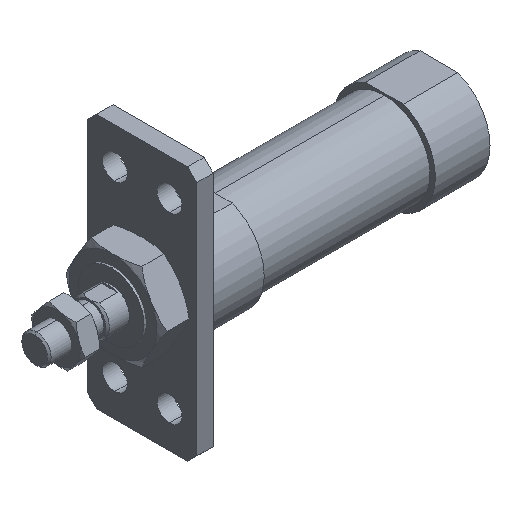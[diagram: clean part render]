
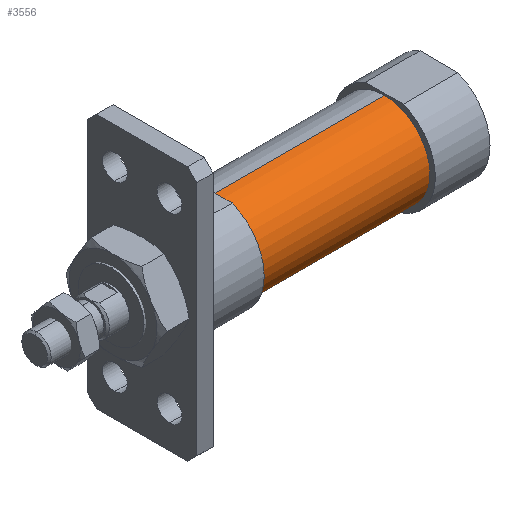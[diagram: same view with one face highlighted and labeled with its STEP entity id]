
A CAD part, isometric view. The second image highlights one B-rep face of the part: STEP entity #3556.
In plain terms, the highlighted cylindrical face has radius 12.5 mm (diameter 25 mm), a partial arc.
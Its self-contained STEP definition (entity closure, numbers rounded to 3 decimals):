
#202 = CARTESIAN_POINT ( 'NONE',  ( 96., 0., 0. ) ) ;
#318 = CARTESIAN_POINT ( 'NONE',  ( -6.469, 0., -12.5 ) ) ;
#387 = AXIS2_PLACEMENT_3D ( 'NONE', #1366, #1168, #2891 ) ;
#467 = CARTESIAN_POINT ( 'NONE',  ( -6.469, 0., 12.5 ) ) ;
#476 = CARTESIAN_POINT ( 'NONE',  ( 96., 0., -12.5 ) ) ;
#495 = CIRCLE ( 'NONE', #387, 12.5 ) ;
#565 = DIRECTION ( 'NONE',  ( -1., 0., 0. ) ) ;
#703 = EDGE_CURVE ( 'NONE', #729, #1319, #1363, .T. ) ;
#729 = VERTEX_POINT ( 'NONE', #476 ) ;
#840 = CARTESIAN_POINT ( 'NONE',  ( -6.469, 0., 0. ) ) ;
#1129 = VECTOR ( 'NONE', #2518, 1000. ) ;
#1168 = DIRECTION ( 'NONE',  ( -1., 0., 0. ) ) ;
#1319 = VERTEX_POINT ( 'NONE', #1540 ) ;
#1326 = AXIS2_PLACEMENT_3D ( 'NONE', #840, #565, #1750 ) ;
#1363 = CIRCLE ( 'NONE', #3261, 12.5 ) ;
#1366 = CARTESIAN_POINT ( 'NONE',  ( 49., 0., 0. ) ) ;
#1540 = CARTESIAN_POINT ( 'NONE',  ( 96., 0., 12.5 ) ) ;
#1673 = DIRECTION ( 'NONE',  ( 0., 0., 1. ) ) ;
#1750 = DIRECTION ( 'NONE',  ( 0., 0., 1. ) ) ;
#1894 = LINE ( 'NONE', #467, #1129 ) ;
#1977 = EDGE_CURVE ( 'NONE', #1319, #3231, #1894, .T. ) ;
#2049 = DIRECTION ( 'NONE',  ( -1., 0., 0. ) ) ;
#2173 = ORIENTED_EDGE ( 'NONE', *, *, #703, .T. ) ;
#2192 = EDGE_CURVE ( 'NONE', #729, #3141, #2438, .T. ) ;
#2197 = DIRECTION ( 'NONE',  ( -1., 0., 0. ) ) ;
#2216 = EDGE_LOOP ( 'NONE', ( #3466, #2173, #2767, #3482 ) ) ;
#2438 = LINE ( 'NONE', #318, #3618 ) ;
#2518 = DIRECTION ( 'NONE',  ( -1., 0., 0. ) ) ;
#2521 = CARTESIAN_POINT ( 'NONE',  ( 49., 0., 12.5 ) ) ;
#2760 = CARTESIAN_POINT ( 'NONE',  ( 49., 0., -12.5 ) ) ;
#2767 = ORIENTED_EDGE ( 'NONE', *, *, #1977, .T. ) ;
#2891 = DIRECTION ( 'NONE',  ( 0., 0., 1. ) ) ;
#3141 = VERTEX_POINT ( 'NONE', #2760 ) ;
#3161 = CYLINDRICAL_SURFACE ( 'NONE', #1326, 12.5 ) ;
#3231 = VERTEX_POINT ( 'NONE', #2521 ) ;
#3261 = AXIS2_PLACEMENT_3D ( 'NONE', #202, #2197, #1673 ) ;
#3297 = FACE_OUTER_BOUND ( 'NONE', #2216, .T. ) ;
#3449 = EDGE_CURVE ( 'NONE', #3141, #3231, #495, .T. ) ;
#3466 = ORIENTED_EDGE ( 'NONE', *, *, #2192, .F. ) ;
#3482 = ORIENTED_EDGE ( 'NONE', *, *, #3449, .F. ) ;
#3556 = ADVANCED_FACE ( 'NONE', ( #3297 ), #3161, .T. ) ;
#3618 = VECTOR ( 'NONE', #2049, 1000. ) ;
